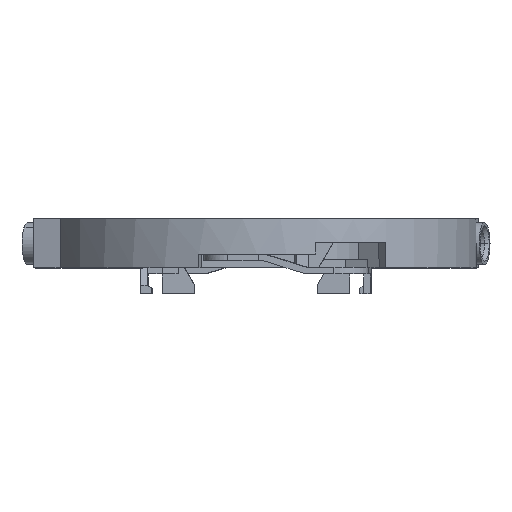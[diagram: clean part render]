
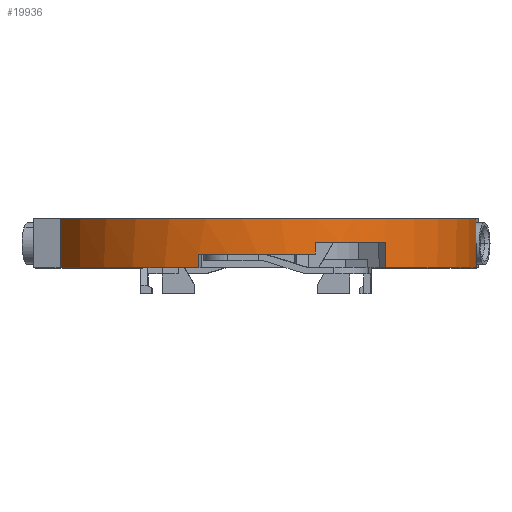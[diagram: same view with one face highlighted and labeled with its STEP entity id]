
A CAD part, front view. The second image highlights one B-rep face of the part: STEP entity #19936.
In plain terms, the highlighted cylindrical face has radius 20 mm (diameter 40 mm), a partial arc.
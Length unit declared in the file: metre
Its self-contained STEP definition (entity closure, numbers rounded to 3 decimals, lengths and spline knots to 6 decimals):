
#13701=CARTESIAN_POINT(' ',(-0.017772,-0.009174,0.00445));
#13702=VERTEX_POINT(' ',#13701);
#13716=CARTESIAN_POINT(' ',(0.,0.,0.00445));
#13721=DIRECTION(' ',(0.,0.,1.));
#13726=DIRECTION(' ',(-0.889,-0.459,0.));
#13731=AXIS2_PLACEMENT_3D(' ',#13716,#13721,#13726);
#13736=CIRCLE('',#13731,0.02);
#13741=CARTESIAN_POINT(' ',(0.019312,0.005201,0.00445));
#13742=VERTEX_POINT(' ',#13741);
#13746=EDGE_CURVE(' ',#13702,#13742,#13736,.T.);
#19211=CARTESIAN_POINT(' ',(-0.017772,-0.009174,0.00445));
#19216=DIRECTION(' ',(0.,0.,-1.));
#19221=VECTOR(' ',#19216,1.);
#19226=LINE('',#19211,#19221);
#19231=CARTESIAN_POINT(' ',(-0.017772,-0.009174,0.));
#19232=VERTEX_POINT(' ',#19231);
#19236=EDGE_CURVE(' ',#13702,#19232,#19226,.T.);
#19301=CARTESIAN_POINT(' ',(0.,0.,0.0225));
#19306=DIRECTION(' ',(0.,0.,1.));
#19311=DIRECTION(' ',(-0.889,-0.459,-0.));
#19316=AXIS2_PLACEMENT_3D(' ',#19301,#19306,#19311);
#19321=CYLINDRICAL_SURFACE(' ',#19316,0.02);
#19326=CARTESIAN_POINT(' ',(0.011756,-0.01618,0.0023));
#19331=DIRECTION(' ',(0.,0.,-1.));
#19336=VECTOR(' ',#19331,1.);
#19341=LINE('',#19326,#19336);
#19346=CARTESIAN_POINT(' ',(0.011756,-0.01618,0.0023));
#19347=VERTEX_POINT(' ',#19346);
#19351=CARTESIAN_POINT(' ',(0.011756,-0.01618,0.));
#19352=VERTEX_POINT(' ',#19351);
#19356=EDGE_CURVE(' ',#19347,#19352,#19341,.T.);
#19361=ORIENTED_EDGE(' ',*,*,#19356,.T.);
#19366=CARTESIAN_POINT(' ',(0.,0.,0.));
#19371=DIRECTION(' ',(0.,-0.,1.));
#19376=DIRECTION(' ',(0.588,-0.809,0.));
#19381=AXIS2_PLACEMENT_3D(' ',#19366,#19371,#19376);
#19386=CIRCLE('',#19381,0.02);
#19391=CARTESIAN_POINT(' ',(0.0199,-0.002,0.));
#19392=VERTEX_POINT(' ',#19391);
#19396=EDGE_CURVE(' ',#19352,#19392,#19386,.T.);
#19401=ORIENTED_EDGE(' ',*,*,#19396,.T.);
#19406=CARTESIAN_POINT(' ',(0.0199,-0.002,0.));
#19411=DIRECTION(' ',(0.,0.,-1.));
#19416=VECTOR(' ',#19411,1.);
#19421=LINE('',#19406,#19416);
#19426=CARTESIAN_POINT(' ',(0.0199,-0.002,-0.00005));
#19427=VERTEX_POINT(' ',#19426);
#19431=EDGE_CURVE(' ',#19392,#19427,#19421,.T.);
#19436=ORIENTED_EDGE(' ',*,*,#19431,.T.);
#19441=CARTESIAN_POINT(' ',(0.,0.,-0.00005));
#19446=DIRECTION(' ',(0.,0.,1.));
#19451=DIRECTION(' ',(0.995,-0.1,0.));
#19456=AXIS2_PLACEMENT_3D(' ',#19441,#19446,#19451);
#19461=CIRCLE('',#19456,0.02);
#19466=CARTESIAN_POINT(' ',(0.0199,0.002,-0.00005));
#19467=VERTEX_POINT(' ',#19466);
#19471=EDGE_CURVE(' ',#19427,#19467,#19461,.T.);
#19476=ORIENTED_EDGE(' ',*,*,#19471,.T.);
#19481=CARTESIAN_POINT(' ',(0.0199,0.002,0.));
#19486=DIRECTION(' ',(0.,0.,-1.));
#19491=VECTOR(' ',#19486,1.);
#19496=LINE('',#19481,#19491);
#19501=CARTESIAN_POINT(' ',(0.0199,0.002,0.));
#19502=VERTEX_POINT(' ',#19501);
#19506=EDGE_CURVE(' ',#19502,#19467,#19496,.T.);
#19511=ORIENTED_EDGE(' ',*,*,#19506,.F.);
#19516=CARTESIAN_POINT(' ',(0.,0.,0.));
#19521=DIRECTION(' ',(0.,0.,1.));
#19526=DIRECTION(' ',(0.995,0.1,0.));
#19531=AXIS2_PLACEMENT_3D(' ',#19516,#19521,#19526);
#19536=CIRCLE('',#19531,0.02);
#19541=CARTESIAN_POINT(' ',(0.019312,0.005201,0.));
#19542=VERTEX_POINT(' ',#19541);
#19546=EDGE_CURVE(' ',#19502,#19542,#19536,.T.);
#19551=ORIENTED_EDGE(' ',*,*,#19546,.T.);
#19556=CARTESIAN_POINT(' ',(0.019312,0.005201,0.));
#19561=DIRECTION(' ',(0.,0.,1.));
#19566=VECTOR(' ',#19561,1.);
#19571=LINE('',#19556,#19566);
#19576=CARTESIAN_POINT(' ',(0.019312,0.005201,0.000322));
#19577=VERTEX_POINT(' ',#19576);
#19581=EDGE_CURVE(' ',#19542,#19577,#19571,.T.);
#19586=ORIENTED_EDGE(' ',*,*,#19581,.T.);
#19591=CARTESIAN_POINT(' ',(0.019048,0.005417,0.00255));
#19596=DIRECTION(' ',(-0.96,-0.267,-0.088));
#19601=DIRECTION(' ',(0.117,-0.096,-0.988));
#19606=AXIS2_PLACEMENT_3D(' ',#19591,#19596,#19601);
#19611=CIRCLE('',#19606,0.002254);
#19616=CARTESIAN_POINT(' ',(0.019564,0.004152,0.000758));
#19617=VERTEX_POINT(' ',#19616);
#19621=EDGE_CURVE(' ',#19577,#19617,#19611,.T.);
#19626=ORIENTED_EDGE(' ',*,*,#19621,.T.);
#19631=CARTESIAN_POINT(' ',(0.019564,0.004152,0.000758));
#19636=CARTESIAN_POINT(' ',(0.019653,0.003733,0.001085));
#19641=CARTESIAN_POINT(' ',(0.019697,0.003468,0.001571));
#19646=CARTESIAN_POINT(' ',(0.019708,0.003403,0.002501));
#19651=CARTESIAN_POINT(' ',(0.019686,0.003539,0.002945));
#19656=CARTESIAN_POINT(' ',(0.019595,0.00401,0.003563));
#19661=CARTESIAN_POINT(' ',(0.019538,0.004291,0.003782));
#19666=CARTESIAN_POINT(' ',(0.019416,0.004802,0.003993));
#19671=CARTESIAN_POINT(' ',(0.019373,0.004975,0.004047));
#19676=CARTESIAN_POINT(' ',(0.019312,0.005201,0.004078));
#19681=B_SPLINE_CURVE_WITH_KNOTS('',3,(#19631,#19636,#19641,#19646,#19651,#19656,#19661,#19666,#19671,#19676),.UNSPECIFIED.,.F.,.U.,(4,2,2,2,4),(0.,0.358318,0.656916,0.895795,1.),.UNSPECIFIED.);
#19686=CARTESIAN_POINT(' ',(0.019312,0.005201,0.004078));
#19687=VERTEX_POINT(' ',#19686);
#19691=EDGE_CURVE(' ',#19617,#19687,#19681,.T.);
#19696=ORIENTED_EDGE(' ',*,*,#19691,.T.);
#19701=CARTESIAN_POINT(' ',(0.019312,0.005201,0.004078));
#19706=DIRECTION(' ',(0.,0.,1.));
#19711=VECTOR(' ',#19706,1.);
#19716=LINE('',#19701,#19711);
#19721=EDGE_CURVE(' ',#19687,#13742,#19716,.T.);
#19726=ORIENTED_EDGE(' ',*,*,#19721,.T.);
#19731=ORIENTED_EDGE(' ',*,*,#13746,.F.);
#19736=ORIENTED_EDGE(' ',*,*,#19236,.T.);
#19741=CARTESIAN_POINT(' ',(0.,0.,0.));
#19746=DIRECTION(' ',(0.,0.,1.));
#19751=DIRECTION(' ',(-0.889,-0.459,0.));
#19756=AXIS2_PLACEMENT_3D(' ',#19741,#19746,#19751);
#19761=CIRCLE('',#19756,0.02);
#19766=CARTESIAN_POINT(' ',(-0.005176,-0.019319,0.));
#19767=VERTEX_POINT(' ',#19766);
#19771=EDGE_CURVE(' ',#19232,#19767,#19761,.T.);
#19776=ORIENTED_EDGE(' ',*,*,#19771,.T.);
#19781=CARTESIAN_POINT(' ',(-0.005176,-0.019319,0.00125));
#19786=DIRECTION(' ',(0.,0.,-1.));
#19791=VECTOR(' ',#19786,1.);
#19796=LINE('',#19781,#19791);
#19801=CARTESIAN_POINT(' ',(-0.005176,-0.019319,0.00125));
#19802=VERTEX_POINT(' ',#19801);
#19806=EDGE_CURVE(' ',#19802,#19767,#19796,.T.);
#19811=ORIENTED_EDGE(' ',*,*,#19806,.F.);
#19816=CARTESIAN_POINT(' ',(0.,0.,0.00125));
#19821=DIRECTION(' ',(0.,-0.,1.));
#19826=DIRECTION(' ',(-0.259,-0.966,0.));
#19831=AXIS2_PLACEMENT_3D(' ',#19816,#19821,#19826);
#19836=CIRCLE('',#19831,0.02);
#19841=CARTESIAN_POINT(' ',(0.005361,-0.019268,0.00125));
#19842=VERTEX_POINT(' ',#19841);
#19846=EDGE_CURVE(' ',#19802,#19842,#19836,.T.);
#19851=ORIENTED_EDGE(' ',*,*,#19846,.T.);
#19856=CARTESIAN_POINT(' ',(0.005361,-0.019268,0.0023));
#19861=DIRECTION(' ',(0.,0.,-1.));
#19866=VECTOR(' ',#19861,1.);
#19871=LINE('',#19856,#19866);
#19876=CARTESIAN_POINT(' ',(0.005361,-0.019268,0.0023));
#19877=VERTEX_POINT(' ',#19876);
#19881=EDGE_CURVE(' ',#19877,#19842,#19871,.T.);
#19886=ORIENTED_EDGE(' ',*,*,#19881,.F.);
#19891=CARTESIAN_POINT(' ',(0.,0.,0.0023));
#19896=DIRECTION(' ',(-0.,0.,-1.));
#19901=DIRECTION(' ',(0.588,-0.809,0.));
#19906=AXIS2_PLACEMENT_3D(' ',#19891,#19896,#19901);
#19911=CIRCLE('',#19906,0.02);
#19916=EDGE_CURVE(' ',#19347,#19877,#19911,.T.);
#19921=ORIENTED_EDGE(' ',*,*,#19916,.F.);
#19926=EDGE_LOOP(' ',(#19361,#19401,#19436,#19476,#19511,#19551,#19586,#19626,#19696,#19726,#19731,#19736,#19776,#19811,#19851,#19886,#19921));
#19931=FACE_OUTER_BOUND(' ',#19926,.T.);
#19936=ADVANCED_FACE('',(#19931),#19321,.T.);
